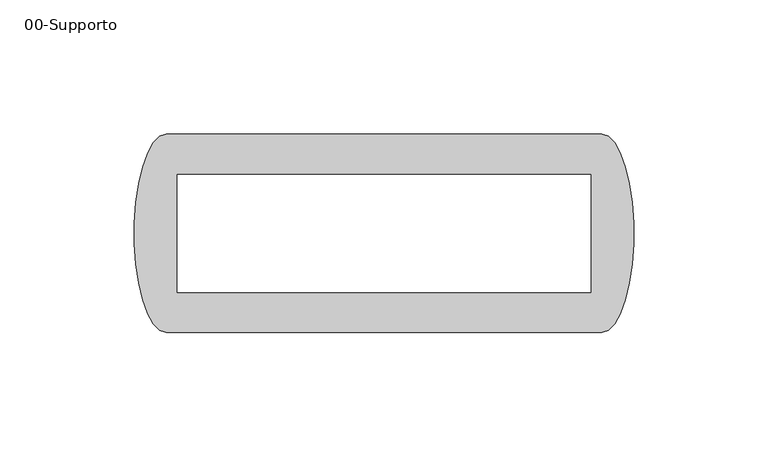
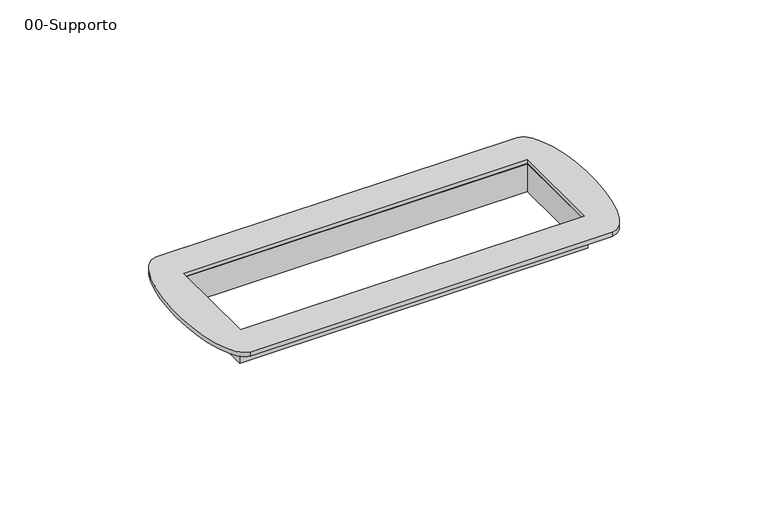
"""IFC4 building model written with IfcOpenShell, lengths in millimetres: proxy geometry, 00-Supporto : Supporto 7 moduli in linea."""

import ifcopenshell
import ifcopenshell.guid

model = None  # the IFC model being written
_history = None  # IfcOwnerHistory: only IFC2X3 demands one
_inside = {}  # id of a spatial element -> (the spatial element, [elements in it])
_under = {}  # id of a project, library or spatial element -> (it, [spatial elements below it])
_declared = {}  # id of a project -> (the project, [libraries it declares])
_typed = {}  # id of a type object -> (the type object, [elements of that type])
_made_of = {}  # id of a material, layer set ... -> (it, [elements and type objects made of it])


def new_model(schema):
    """Start an empty IFC model of exactly this schema.

    Asked for "IFC4X3", IfcOpenShell would pick the latest addendum, in which some entities
    have other attributes; the version numbers below select the first issue.
    IFC2X3 requires an IfcOwnerHistory on every rooted entity: one is made here for all.
    """
    global model, _history
    if schema == "IFC4X3":
        model = ifcopenshell.file(schema_version=(4, 3, 0, 0))
    else:
        model = ifcopenshell.file(schema=schema)
    _inside.clear()
    _under.clear()
    _declared.clear()
    _typed.clear()
    _made_of.clear()
    _history = None
    if model.schema == "IFC2X3":
        org = make("IfcOrganization", Name="unknown")
        user = make(
            "IfcPersonAndOrganization",
            ThePerson=make("IfcPerson", FamilyName="unknown"),
            TheOrganization=org,
        )
        app = make(
            "IfcApplication",
            ApplicationDeveloper=org,
            Version="unknown",
            ApplicationFullName="unknown",
            ApplicationIdentifier="unknown",
        )
        _history = make(
            "IfcOwnerHistory",
            OwningUser=user,
            OwningApplication=app,
            ChangeAction="ADDED",
            CreationDate=0,
        )
    return model


def make(cls, **values):
    """One entity of the class cls with the attributes given. An attribute that is None is left unset."""
    return model.create_entity(
        cls, **{name: value for name, value in values.items() if value is not None}
    )


def rooted(cls, **values):
    """An entity with a GlobalId (a new one), such as an element, a storey or a relation."""
    return make(cls, GlobalId=ifcopenshell.guid.new(), OwnerHistory=_history, **values)


def si_unit(unit_type, name, prefix=None):
    """IfcSIUnit, for example si_unit("LENGTHUNIT", "METRE", prefix="MILLI")."""
    return make("IfcSIUnit", UnitType=unit_type, Prefix=prefix, Name=name)


def assignment(units):
    """IfcUnitAssignment: the units of a project."""
    return None if units is None else make("IfcUnitAssignment", Units=units)


def point(xyz):
    """IfcCartesianPoint."""
    return None if xyz is None else make("IfcCartesianPoint", Coordinates=xyz)


def direction(xyz):
    """IfcDirection."""
    return None if xyz is None else make("IfcDirection", DirectionRatios=xyz)


def frame(location, z_axis=None, x_axis=None):
    """IfcAxis2Placement3D, a coordinate frame: its origin and axes. An axis left out is left unset."""
    return make(
        "IfcAxis2Placement3D",
        Location=point(location),
        Axis=direction(z_axis),
        RefDirection=direction(x_axis),
    )


def origin():
    """The frame at (0, 0, 0) with its axes left unset."""
    return frame((0.0, 0.0, 0.0))


def place(relative_to, where):
    """IfcLocalPlacement: puts the frame where relative to a parent placement (None: the world)."""
    return make(
        "IfcLocalPlacement", PlacementRelTo=relative_to, RelativePlacement=where
    )


def context(
    kind, dimensions, precision=None, world=None, true_north=None, identifier=None
):
    """IfcGeometricRepresentationContext, for example the 3D "Model" context."""
    return make(
        "IfcGeometricRepresentationContext",
        ContextIdentifier=identifier,
        ContextType=kind,
        CoordinateSpaceDimension=dimensions,
        Precision=precision,
        WorldCoordinateSystem=world,
        TrueNorth=true_north,
    )


def project(units=None, contexts=None):
    """IfcProject with its units and contexts."""
    return rooted(
        "IfcProject",
        Name="project",
        RepresentationContexts=contexts,
        UnitsInContext=assignment(units),
    )


def spatial(cls, under=None, at=None, **own):
    """A site, building, storey or space (cls), placed at a placement, below another one or the project."""
    s = rooted(cls, ObjectPlacement=at, **own)
    if under is not None:
        _under.setdefault(under.id(), (under, []))[1].append(s)
    return s


def polyline(points):
    """IfcPolyline through the points."""
    return make("IfcPolyline", Points=[point(p) for p in points])


def ellipse_curve(where, semi_axis1, semi_axis2):
    """IfcEllipse in the frame where."""
    return make(
        "IfcEllipse", Position=where, SemiAxis1=semi_axis1, SemiAxis2=semi_axis2
    )


def trimmed(basis, trim1, trim2, sense, master):
    """IfcTrimmedCurve: the piece of a basis curve between two trims."""
    return make(
        "IfcTrimmedCurve",
        BasisCurve=basis,
        Trim1=trim1,
        Trim2=trim2,
        SenseAgreement=sense,
        MasterRepresentation=master,
    )


def outline(outer, holes=None, kind="AREA"):
    """IfcArbitraryClosedProfileDef: a profile drawn as a closed curve; with holes, ...WithVoids."""
    if holes is None:
        return make("IfcArbitraryClosedProfileDef", ProfileType=kind, OuterCurve=outer)
    return make(
        "IfcArbitraryProfileDefWithVoids",
        ProfileType=kind,
        OuterCurve=outer,
        InnerCurves=holes,
    )


def extrude(swept, where, along, depth):
    """IfcExtrudedAreaSolid: the profile swept, set in the frame where, extruded along a direction by depth."""
    return make(
        "IfcExtrudedAreaSolid",
        SweptArea=swept,
        Position=where,
        ExtrudedDirection=direction(along),
        Depth=depth,
    )


def shape(context_of_items, identifier, shape_type, items):
    """IfcShapeRepresentation: the items that make up one representation, for example the "Body"."""
    return make(
        "IfcShapeRepresentation",
        ContextOfItems=context_of_items,
        RepresentationIdentifier=identifier,
        RepresentationType=shape_type,
        Items=items,
    )


def source(mapping_origin, context_of_items, identifier, shape_type, items):
    """IfcRepresentationMap: a shape defined once, which mapped items show again and again."""
    return make(
        "IfcRepresentationMap",
        MappingOrigin=mapping_origin,
        MappedRepresentation=shape(context_of_items, identifier, shape_type, items),
    )


def transform(
    local_origin,
    x_axis=None,
    y_axis=None,
    z_axis=None,
    scale=None,
    scale2=None,
    scale3=None,
    uniform=True,
):
    """IfcCartesianTransformationOperator3D, or its non-uniform kind. x_axis, y_axis, z_axis: its Axis1, 2, 3."""
    if uniform:
        return make(
            "IfcCartesianTransformationOperator3D",
            Axis1=direction(x_axis),
            Axis2=direction(y_axis),
            LocalOrigin=point(local_origin),
            Scale=scale,
            Axis3=direction(z_axis),
        )
    return make(
        "IfcCartesianTransformationOperator3DnonUniform",
        Axis1=direction(x_axis),
        Axis2=direction(y_axis),
        LocalOrigin=point(local_origin),
        Scale=scale,
        Axis3=direction(z_axis),
        Scale2=scale2,
        Scale3=scale3,
    )


def mapped(mapping_source, mapping_target):
    """IfcMappedItem: shows the shape of a source again, moved by a transform."""
    return make(
        "IfcMappedItem", MappingSource=mapping_source, MappingTarget=mapping_target
    )


def made_of(thing, what):
    """Note that an element or type object is made of a material, layer set ...; save() writes the relation."""
    if what is not None:
        _made_of.setdefault(what.id(), (what, []))[1].append(thing)
    return thing


def element(
    cls,
    number,
    at=None,
    inside=None,
    cuts=None,
    type_object=None,
    material=None,
    context=None,
    identifier="Body",
    shape_type=None,
    held_by="IfcProductDefinitionShape",
    body=None,
    shapes=None,
    **own,
):
    """One element of the class cls, such as IfcWall. Its Tag is "e" and its number.

    at: its placement. inside: the storey or other place that contains it. cuts: it is an
    opening in that element (IfcRelVoidsElement). A single representation is given by context,
    identifier, shape_type and body (its items); several are given by shapes. held_by: the class
    of the entity that holds the representations. save() writes the other relations.
    """
    e = rooted(cls, Tag="e%d" % number, ObjectPlacement=at, **own)
    if body is not None:
        shapes = [shape(context, identifier, shape_type, body)]
    if shapes is not None:
        e.Representation = make(held_by, Representations=shapes)
    if inside is not None:
        _inside.setdefault(inside.id(), (inside, []))[1].append(e)
    if cuts is not None:
        rooted(
            "IfcRelVoidsElement", RelatingBuildingElement=cuts, RelatedOpeningElement=e
        )
    if type_object is not None:
        _typed.setdefault(type_object.id(), (type_object, []))[1].append(e)
    return made_of(e, material)


def aggregate(whole, parts):
    """IfcRelAggregates: a whole, such as a stair, and the parts it consists of."""
    return rooted("IfcRelAggregates", RelatingObject=whole, RelatedObjects=parts)


def save(model, path):
    """Write the relations noted so far, then the file.

    IfcRelAggregates (storeys below a building ...), IfcRelContainedInSpatialStructure (elements
    in a storey), IfcRelDefinesByType, IfcRelAssociatesMaterial and IfcRelDeclares: one each for
    every whole, place, type object, material and project.
    """
    for whole, parts in _under.values():
        aggregate(whole, parts)
    for where, things in _inside.values():
        rooted(
            "IfcRelContainedInSpatialStructure",
            RelatedElements=things,
            RelatingStructure=where,
        )
    for kind, things in _typed.values():
        rooted("IfcRelDefinesByType", RelatedObjects=things, RelatingType=kind)
    for what, things in _made_of.values():
        rooted("IfcRelAssociatesMaterial", RelatedObjects=things, RelatingMaterial=what)
    for by, libraries in _declared.values():
        rooted("IfcRelDeclares", RelatingContext=by, RelatedDefinitions=libraries)
    model.write(path)


def plane_surface(at):
    """IfcPlane: the flat surface through the origin of the frame at, square to its z axis."""
    return make("IfcPlane", Position=at)


def extruded_surface(curve, direction_of_extrusion, depth):
    """IfcSurfaceOfLinearExtrusion: the curve pushed along a direction by depth."""
    return make(
        "IfcSurfaceOfLinearExtrusion",
        SweptCurve=make("IfcArbitraryOpenProfileDef", ProfileType="CURVE", Curve=curve),
        ExtrudedDirection=direction(direction_of_extrusion),
        Depth=depth,
    )


def advanced_brep(points, edges, surfaces, faces):
    """IfcAdvancedBrep: a solid bounded by faces that lie on surfaces and meet in shared edges.

    An edge is (start, end): straight between two places in points (the first is 0);
    or (start, end, curve); or (start, end, curve, False) where it runs against its curve.
    A face is (place in surfaces, loops), or (place, loops, False) where it looks against
    its surface's normal. A loop lists edges by number (the first is 1), with a minus sign
    where the edge is run from its end to its start. The first loop is the outer one.
    """
    corners = [point(p) for p in points]
    vertices = [make("IfcVertexPoint", VertexGeometry=c) for c in corners]
    made = []
    for start, end, *more in edges:
        made.append(
            make(
                "IfcEdgeCurve",
                EdgeStart=vertices[start],
                EdgeEnd=vertices[end],
                EdgeGeometry=more[0] if more else make("IfcPolyline", Points=[corners[start], corners[end]]),
                SameSense=more[1] if len(more) > 1 else True,
            )
        )
    hull = []
    for where, loops, *sense in faces:
        bounds = []
        for j, loop in enumerate(loops):
            ring = [make("IfcOrientedEdge", EdgeElement=made[abs(k) - 1], Orientation=k > 0) for k in loop]
            bounds.append(
                make(
                    "IfcFaceOuterBound" if j == 0 else "IfcFaceBound",
                    Bound=make("IfcEdgeLoop", EdgeList=ring),
                    Orientation=True,
                )
            )
        hull.append(make("IfcAdvancedFace", Bounds=bounds, FaceSurface=surfaces[where], SameSense=sense[0] if sense else True))
    return make("IfcAdvancedBrep", Outer=make("IfcClosedShell", CfsFaces=hull))


def proxy_00_supporto_144cd4fb(model_context):
    return source(origin(), model_context, "Body", "SolidModel", [
        extrude(outline(polyline([(78.0, -23.0), (-78.0, -23.0), (-78.0, 23.0), (78.0, 23.0), (78.0, -23.0)]), holes=[polyline([(-77.0, 22.0), (-77.0, -22.0), (77.0, -22.0), (77.0, 22.0), (-77.0, 22.0)])]), frame((0.0, 0.0, -13.0), z_axis=(0.0, 0.0, 1.0), x_axis=(1.0, 0.0, 0.0)), (0.0, 0.0, 1.0), 13.0),
        advanced_brep(
        [(81.0, 37.0, 2.0), (-81.0, 37.0, 2.0), (-81.0, -37.0, 2.0), (81.0, -37.0, 2.0), (-77.0, -22.0, 2.0), (-77.0, 22.0, 2.0), (77.0, 22.0, 2.0), (77.0, -22.0, 2.0), (81.0, 37.0, 0.0), (81.0, -37.0, 0.0), (-81.0, -37.0, 0.0), (-81.0, 37.0, 0.0), (-77.0, -22.0, 0.0), (77.0, -22.0, 0.0), (77.0, 22.0, 0.0), (-77.0, 22.0, 0.0)],
        [
            (0, 1),
            (1, 2, ellipse_curve(frame((-81.0, 0.0, 2.0), z_axis=(0.0, 0.0, 1.0), x_axis=(0.0, -1.0, 0.0)), 37.0, 12.0)),
            (2, 3),
            (3, 0, ellipse_curve(frame((81.0, 0.0, 2.0), z_axis=(0.0, 0.0, 1.0), x_axis=(0.0, 1.0, 0.0)), 37.0, 12.0)),
            (4, 5),
            (5, 6),
            (6, 7),
            (7, 4),
            (8, 9, ellipse_curve(frame((81.0, 0.0, 0.0), z_axis=(0.0, 0.0, -1.0), x_axis=(0.0, 1.0, 0.0)), 37.0, 12.0)),
            (9, 10),
            (10, 11, ellipse_curve(frame((-81.0, 0.0, 0.0), z_axis=(0.0, 0.0, -1.0), x_axis=(0.0, -1.0, 0.0)), 37.0, 12.0)),
            (11, 8),
            (12, 13),
            (13, 14),
            (14, 15),
            (15, 12),
            (0, 8),
            (11, 1),
            (2, 10),
            (9, 3),
            (4, 12),
            (15, 5),
            (14, 6),
            (13, 7),
        ],
        [
            plane_surface(frame((-81.0, 37.0, 2.0), z_axis=(0.0, 0.0, 1.0), x_axis=(-1.0, 0.0, 0.0))),
            plane_surface(frame((-81.0, 37.0, 0.0), z_axis=(0.0, 0.0, -1.0), x_axis=(1.0, 0.0, 0.0))),
            plane_surface(frame((81.0, 37.0, 2.0), z_axis=(0.0, 1.0, 0.0), x_axis=(0.0, 0.0, -1.0))),
            plane_surface(frame((-81.0, -37.0, 2.0), z_axis=(0.0, -1.0, 0.0), x_axis=(0.0, 0.0, -1.0))),
            plane_surface(frame((-77.0, -22.0, 2.0), z_axis=(1.0, 0.0, 0.0), x_axis=(0.0, 0.0, -1.0))),
            plane_surface(frame((-77.0, 22.0, 2.0), z_axis=(0.0, -1.0, 0.0), x_axis=(0.0, 0.0, -1.0))),
            plane_surface(frame((77.0, 22.0, 2.0), z_axis=(-1.0, 0.0, 0.0), x_axis=(0.0, 0.0, -1.0))),
            plane_surface(frame((77.0, -22.0, 2.0), z_axis=(0.0, 1.0, 0.0), x_axis=(0.0, 0.0, -1.0))),
            extruded_surface(trimmed(ellipse_curve(frame((81.0, 0.0, -2.0), z_axis=(0.0, 0.0, 1.0), x_axis=(0.0, 1.0, 0.0)), 37.0, 12.0), [point((81.0, -37.0, -2.0))], [point((81.0, 37.0, -2.0))], True, "CARTESIAN"), (0.0, 0.0, 2.0), 2.0),
            extruded_surface(trimmed(ellipse_curve(frame((-81.0, 0.0, -2.0), z_axis=(0.0, 0.0, 1.0), x_axis=(0.0, -1.0, 0.0)), 37.0, 12.0), [point((-81.0, 37.0, -2.0))], [point((-81.0, -37.0, -2.0))], True, "CARTESIAN"), (0.0, 0.0, 2.0), 2.0),
        ],
        [
            (0, [[1, 2, 3, 4], [5, 6, 7, 8]]),
            (1, [[9, 10, 11, 12], [13, 14, 15, 16]]),
            (2, [[-1, 17, -12, 18]]),
            (3, [[-3, 19, -10, 20]]),
            (4, [[-5, 21, -16, 22]]),
            (5, [[-6, -22, -15, 23]]),
            (6, [[-7, -23, -14, 24]]),
            (7, [[-8, -24, -13, -21]]),
            (8, [[-4, -20, -9, -17]]),
            (9, [[-2, -18, -11, -19]]),
        ],
    ),
    ])


if __name__ == "__main__":
    model = new_model("IFC4")
    model_context = context("Model", 3, world=origin())
    ifc_project = project(units=[si_unit("LENGTHUNIT", "METRE", prefix="MILLI")], contexts=[model_context])
    site = spatial("IfcSite", under=ifc_project)
    building = spatial("IfcBuilding", under=site)
    placement = place(None, origin())
    proxy_00_supporto_shape = proxy_00_supporto_144cd4fb(model_context)
    element("IfcBuildingElementProxy", 1, Name="00-Supporto : Supporto 7 moduli in linea", ObjectType="00-Supporto : Supporto 7 moduli in linea", at=placement, inside=building, context=model_context, shape_type="MappedRepresentation", body=[
        mapped(proxy_00_supporto_shape, transform((0.0, 0.0, 0.0), x_axis=(1.0, 0.0, 0.0), y_axis=(0.0, 1.0, 0.0), z_axis=(0.0, 0.0, 1.0))),
    ])
    save(model, "model.ifc")
